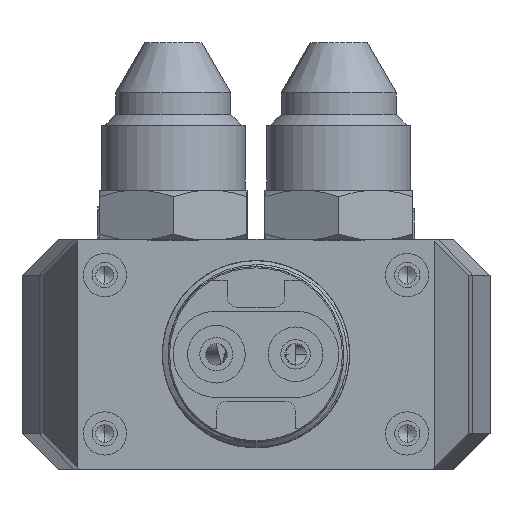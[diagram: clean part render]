
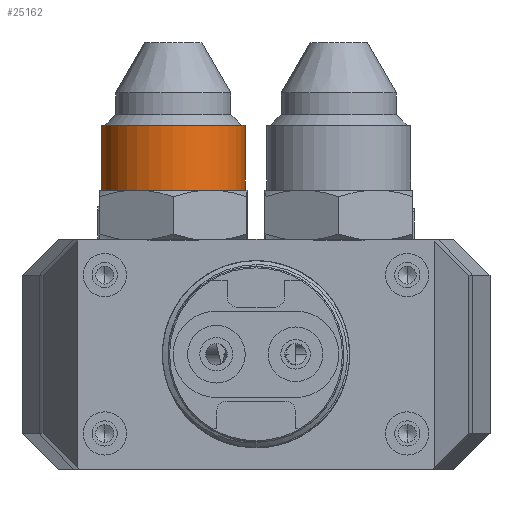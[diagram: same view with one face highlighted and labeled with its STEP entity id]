
A CAD part, front view. The second image highlights one B-rep face of the part: STEP entity #25162.
In plain terms, the highlighted cylindrical face has radius 10 mm (diameter 20 mm), a partial arc.
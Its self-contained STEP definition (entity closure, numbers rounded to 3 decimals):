
#1203 = VERTEX_POINT ( 'NONE', #18716 ) ;
#1387 = DIRECTION ( 'NONE',  ( 0., 0., -1. ) ) ;
#2035 = VECTOR ( 'NONE', #2133, 1000. ) ;
#2133 = DIRECTION ( 'NONE',  ( 0., 0., 1. ) ) ;
#5217 = ORIENTED_EDGE ( 'NONE', *, *, #54288, .T. ) ;
#9283 = VECTOR ( 'NONE', #49281, 1000. ) ;
#9567 = FACE_OUTER_BOUND ( 'NONE', #15976, .T. ) ;
#10644 = VERTEX_POINT ( 'NONE', #30044 ) ;
#15712 = LINE ( 'NONE', #50530, #9283 ) ;
#15976 = EDGE_LOOP ( 'NONE', ( #42968, #5217, #41070, #52882 ) ) ;
#18350 = DIRECTION ( 'NONE',  ( 1., 0., 0. ) ) ;
#18716 = CARTESIAN_POINT ( 'NONE',  ( 57.484, -124.724, 1009.903 ) ) ;
#21035 = DIRECTION ( 'NONE',  ( 0., 0., 1. ) ) ;
#21664 = CYLINDRICAL_SURFACE ( 'NONE', #29496, 10. ) ;
#24870 = AXIS2_PLACEMENT_3D ( 'NONE', #54174, #1387, #25384 ) ;
#25162 = ADVANCED_FACE ( 'NONE', ( #9567 ), #21664, .T. ) ;
#25384 = DIRECTION ( 'NONE',  ( 1., 0., 0. ) ) ;
#29496 = AXIS2_PLACEMENT_3D ( 'NONE', #61298, #21035, #55860 ) ;
#30044 = CARTESIAN_POINT ( 'NONE',  ( 37.484, -124.724, 1009.903 ) ) ;
#33173 = VERTEX_POINT ( 'NONE', #46958 ) ;
#34574 = CIRCLE ( 'NONE', #42737, 10. ) ;
#34979 = EDGE_CURVE ( 'NONE', #10644, #42494, #15712, .T. ) ;
#36345 = CARTESIAN_POINT ( 'NONE',  ( 57.484, -124.724, 1041.175 ) ) ;
#39696 = EDGE_CURVE ( 'NONE', #33173, #42494, #41183, .T. ) ;
#41070 = ORIENTED_EDGE ( 'NONE', *, *, #59524, .T. ) ;
#41183 = CIRCLE ( 'NONE', #24870, 10. ) ;
#42494 = VERTEX_POINT ( 'NONE', #55878 ) ;
#42737 = AXIS2_PLACEMENT_3D ( 'NONE', #43280, #43906, #18350 ) ;
#42968 = ORIENTED_EDGE ( 'NONE', *, *, #34979, .F. ) ;
#43280 = CARTESIAN_POINT ( 'NONE',  ( 47.484, -124.724, 1009.903 ) ) ;
#43906 = DIRECTION ( 'NONE',  ( 0., 0., 1. ) ) ;
#46573 = LINE ( 'NONE', #36345, #2035 ) ;
#46958 = CARTESIAN_POINT ( 'NONE',  ( 57.484, -124.724, 1018.903 ) ) ;
#49281 = DIRECTION ( 'NONE',  ( 0., 0., 1. ) ) ;
#50530 = CARTESIAN_POINT ( 'NONE',  ( 37.484, -124.724, 1041.175 ) ) ;
#52882 = ORIENTED_EDGE ( 'NONE', *, *, #39696, .T. ) ;
#54174 = CARTESIAN_POINT ( 'NONE',  ( 47.484, -124.724, 1018.903 ) ) ;
#54288 = EDGE_CURVE ( 'NONE', #10644, #1203, #34574, .T. ) ;
#55860 = DIRECTION ( 'NONE',  ( 1., 0., 0. ) ) ;
#55878 = CARTESIAN_POINT ( 'NONE',  ( 37.484, -124.724, 1018.903 ) ) ;
#59524 = EDGE_CURVE ( 'NONE', #1203, #33173, #46573, .T. ) ;
#61298 = CARTESIAN_POINT ( 'NONE',  ( 47.484, -124.724, 1041.175 ) ) ;
